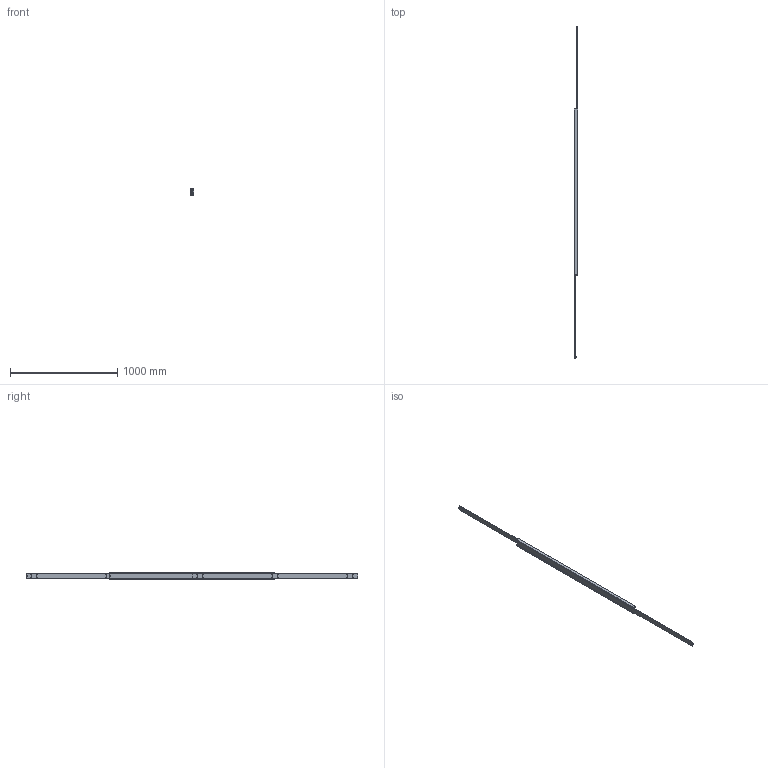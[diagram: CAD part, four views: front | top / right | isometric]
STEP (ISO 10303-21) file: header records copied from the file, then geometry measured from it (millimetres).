
FILE_DESCRIPTION(/* description */ (''),/* implementation_level */ '2;1');
FILE_NAME(/* name */ 'C:\Users\Miluxor\Desktop\Miluxor Schienen\Original Zeichnungen\Zeichnungen Schienen Komplett\MX-DTP70\MX-DTP70.155\MX-DTP70.155_ausgefahren.stp',/* time_stamp */ '2020-11-23T14:28:20+01:00',/* author */ ('Miluxor'),/* organization */ (''),/* preprocessor_version */ 'ST-DEVELOPER v16.13',/* originating_system */ 'AutoCAD Mechanical',/* authorisation */ '');
FILE_SCHEMA (('AUTOMOTIVE_DESIGN { 1 0 10303 214 3 1 1 }'));
Length unit declared in the file: millimetre
Products named in the file (1): Product
Bounding box: 32 x 3100 x 70 mm (x, y, z)
Volume: 2641398.5 mm3; surface area: 873708.5 mm2
Topology: 61 solids, 63 shells, 190 faces, 632 edges, 456 vertices
Faces by surface type: plane 82, sphere 56, cylinder 38, bspline 8, torus 6
Full cylindrical faces by diameter (mm): 8 x24, 13 x2
Entity records: 12955 total; most frequent: CARTESIAN_POINT 7587, DIRECTION 1090, ORIENTED_EDGE 828, EDGE_CURVE 486, VERTEX_POINT 454, AXIS2_PLACEMENT_3D 439, EDGE_LOOP 386, CIRCLE 252
